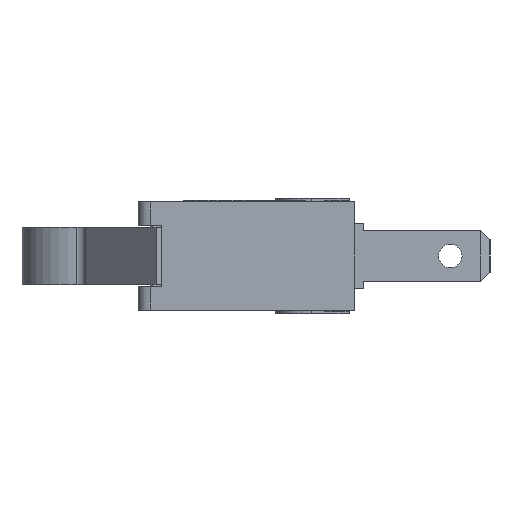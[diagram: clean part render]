
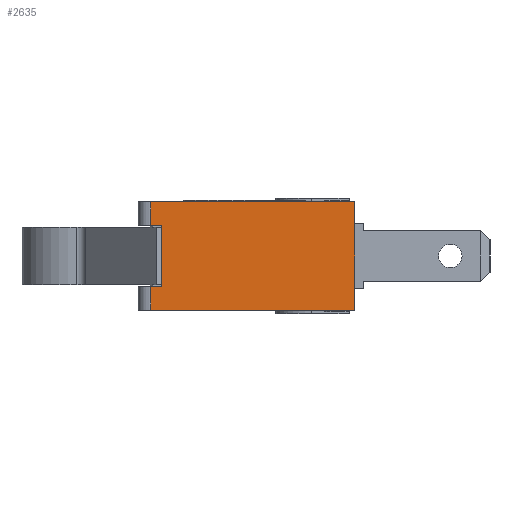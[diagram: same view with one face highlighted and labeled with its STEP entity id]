
A CAD part, left-side view. The second image highlights one B-rep face of the part: STEP entity #2635.
In plain terms, the highlighted planar face has unit normal (-1, 0, 0).
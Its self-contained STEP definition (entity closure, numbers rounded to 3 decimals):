
#2089=CARTESIAN_POINT('',(-14.7,-2.4,-3.0));
#2090=VERTEX_POINT('',#2089);
#2097=CARTESIAN_POINT('',(-14.7,8.9,-3.0));
#2098=VERTEX_POINT('',#2097);
#2099=CARTESIAN_POINT('',(-14.7,8.9,-3.0));
#2100=DIRECTION('',(0.0,-1.0,0.0));
#2101=VECTOR('',#2100,11.3);
#2102=LINE('',#2099,#2101);
#2103=EDGE_CURVE('',#2098,#2090,#2102,.T.);
#2573=CARTESIAN_POINT('',(-14.7,-2.4,-3.0));
#2574=DIRECTION('',(-1.0,0.0,0.0));
#2575=DIRECTION('',(0.0,0.0,1.0));
#2576=AXIS2_PLACEMENT_3D('',#2573,#2574,#2575);
#2577=PLANE('',#2576);
#2578=CARTESIAN_POINT('',(-14.7,8.3,-1.7));
#2579=VERTEX_POINT('',#2578);
#2580=CARTESIAN_POINT('',(-14.7,8.9,-1.7));
#2581=VERTEX_POINT('',#2580);
#2582=CARTESIAN_POINT('',(-14.7,8.3,-1.7));
#2583=DIRECTION('',(0.0,1.0,0.0));
#2584=VECTOR('',#2583,0.6);
#2585=LINE('',#2582,#2584);
#2586=EDGE_CURVE('',#2579,#2581,#2585,.T.);
#2587=ORIENTED_EDGE('',*,*,#2586,.T.);
#2588=CARTESIAN_POINT('',(-14.7,8.9,-3.0));
#2589=DIRECTION('',(0.0,0.0,1.0));
#2590=VECTOR('',#2589,1.3);
#2591=LINE('',#2588,#2590);
#2592=EDGE_CURVE('',#2098,#2581,#2591,.T.);
#2593=ORIENTED_EDGE('',*,*,#2592,.F.);
#2594=ORIENTED_EDGE('',*,*,#2103,.T.);
#2595=CARTESIAN_POINT('',(-14.7,-2.4,3.0));
#2596=VERTEX_POINT('',#2595);
#2597=CARTESIAN_POINT('',(-14.7,-2.4,-3.0));
#2598=DIRECTION('',(0.0,0.0,1.0));
#2599=VECTOR('',#2598,6.0);
#2600=LINE('',#2597,#2599);
#2601=EDGE_CURVE('',#2090,#2596,#2600,.T.);
#2602=ORIENTED_EDGE('',*,*,#2601,.T.);
#2603=CARTESIAN_POINT('',(-14.7,8.9,3.0));
#2604=VERTEX_POINT('',#2603);
#2605=CARTESIAN_POINT('',(-14.7,-2.4,3.0));
#2606=DIRECTION('',(0.0,1.0,0.0));
#2607=VECTOR('',#2606,11.3);
#2608=LINE('',#2605,#2607);
#2609=EDGE_CURVE('',#2596,#2604,#2608,.T.);
#2610=ORIENTED_EDGE('',*,*,#2609,.T.);
#2611=CARTESIAN_POINT('',(-14.7,8.9,1.7));
#2612=VERTEX_POINT('',#2611);
#2613=CARTESIAN_POINT('',(-14.7,8.9,1.7));
#2614=DIRECTION('',(0.0,0.0,1.0));
#2615=VECTOR('',#2614,1.3);
#2616=LINE('',#2613,#2615);
#2617=EDGE_CURVE('',#2612,#2604,#2616,.T.);
#2618=ORIENTED_EDGE('',*,*,#2617,.F.);
#2619=CARTESIAN_POINT('',(-14.7,8.3,1.7));
#2620=VERTEX_POINT('',#2619);
#2621=CARTESIAN_POINT('',(-14.7,8.9,1.7));
#2622=DIRECTION('',(0.0,-1.0,0.0));
#2623=VECTOR('',#2622,0.6);
#2624=LINE('',#2621,#2623);
#2625=EDGE_CURVE('',#2612,#2620,#2624,.T.);
#2626=ORIENTED_EDGE('',*,*,#2625,.T.);
#2627=CARTESIAN_POINT('',(-14.7,8.3,1.7));
#2628=DIRECTION('',(0.0,0.0,-1.0));
#2629=VECTOR('',#2628,3.4);
#2630=LINE('',#2627,#2629);
#2631=EDGE_CURVE('',#2620,#2579,#2630,.T.);
#2632=ORIENTED_EDGE('',*,*,#2631,.T.);
#2633=EDGE_LOOP('',(#2587,#2593,#2594,#2602,#2610,#2618,#2626,#2632));
#2634=FACE_OUTER_BOUND('',#2633,.T.);
#2635=ADVANCED_FACE('',(#2634),#2577,.T.);
